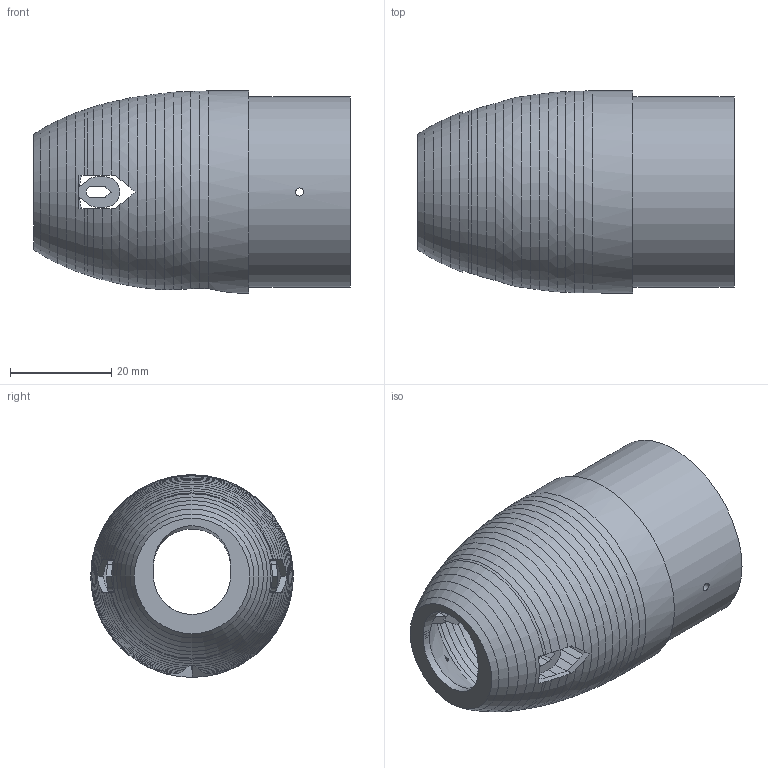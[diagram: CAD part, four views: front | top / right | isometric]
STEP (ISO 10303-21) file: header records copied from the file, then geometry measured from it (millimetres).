
FILE_DESCRIPTION(('SkyG Speed 90B - revision C6B-19 - 2026-10-15','N0M-nose-micro-camera'),'2;1');
FILE_NAME('N0M-nose-micro-camera_C6B-19','2026-10-15T15:56:15',('Author'),( 'Open CASCADE'),'Open CASCADE STEP processor 7.9','Open CASCADE 7.9' ,'Unknown');
FILE_SCHEMA(('AUTOMOTIVE_DESIGN { 1 0 10303 214 1 1 1 1 }'));
Length unit declared in the file: millimetre
Products named in the file (1): N0M-nose-micro-camera C6B-19
Bounding box: 62.5 x 40 x 40 mm (x, y, z)
Volume: 13767.1 mm3; surface area: 15350.1 mm2
Topology: 1 solids, 1 shells, 295 faces, 864 edges, 570 vertices
Faces by surface type: plane 161, cone 61, cylinder 41, bspline 32
Full cylindrical faces by diameter (mm): 1.6 x2, 33.8 x1, 37.7 x1, 40 x1
Entity records: 24379 total; most frequent: CARTESIAN_POINT 8602, DIRECTION 2615, ORIENTED_EDGE 1728, PCURVE 1728, DEFINITIONAL_REPRESENTATION 1728, LINE 1141, VECTOR 1141, EDGE_CURVE 864
